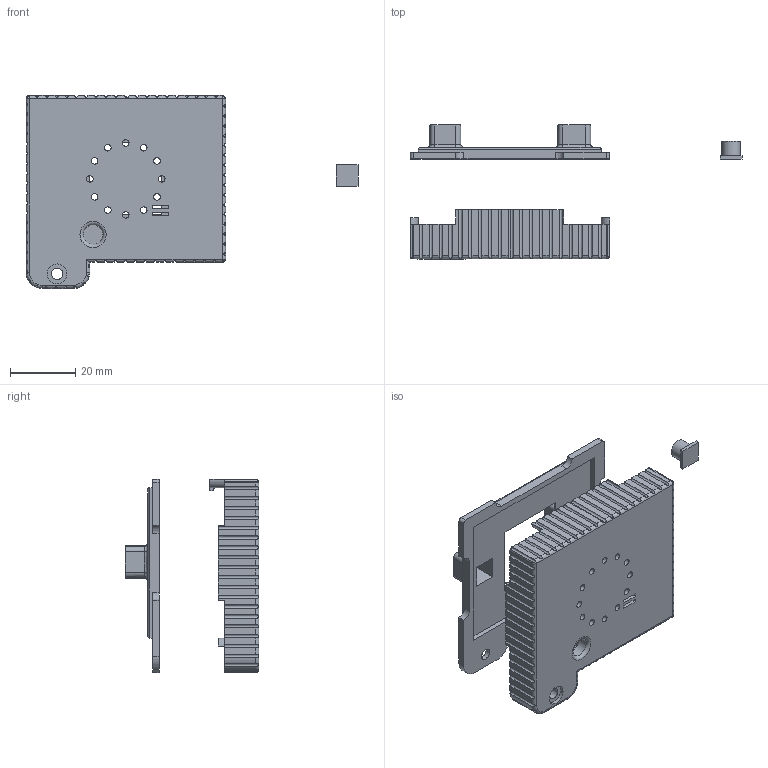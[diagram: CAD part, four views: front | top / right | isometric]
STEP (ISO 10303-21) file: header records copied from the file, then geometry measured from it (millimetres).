
FILE_DESCRIPTION(/* description */ (''),/* implementation_level */ '2;1');
FILE_NAME(/* name */ 'MicroBit.step',/* time_stamp */ '2025-11-25T21:32:12+02:00',/* author */ (''),/* organization */ (''),/* preprocessor_version */ 'ST-DEVELOPER v20.1',/* originating_system */ 'Autodesk Translation Framework v14.21.0.0',/* authorisation */ '');
FILE_SCHEMA (('AUTOMOTIVE_DESIGN { 1 0 10303 214 3 1 1 }'));
Length unit declared in the file: millimetre
Products named in the file (1): MicroBit
Bounding box: 101.49 x 40.9 x 59 mm (x, y, z)
Volume: 19222.3 mm3; surface area: 19551.5 mm2
Topology: 3 solids, 3 shells, 403 faces, 1105 edges, 722 vertices
Faces by surface type: plane 201, cylinder 168, bspline 28, torus 3, sphere 3
Full cylindrical faces by diameter (mm): 2 x12, 3.5 x2, 5.7 x1, 6 x4
Entity records: 15315 total; most frequent: CARTESIAN_POINT 5149, ORIENTED_EDGE 2210, DIRECTION 1946, EDGE_CURVE 1105, VERTEX_POINT 722, LINE 684, VECTOR 684, AXIS2_PLACEMENT_3D 631
